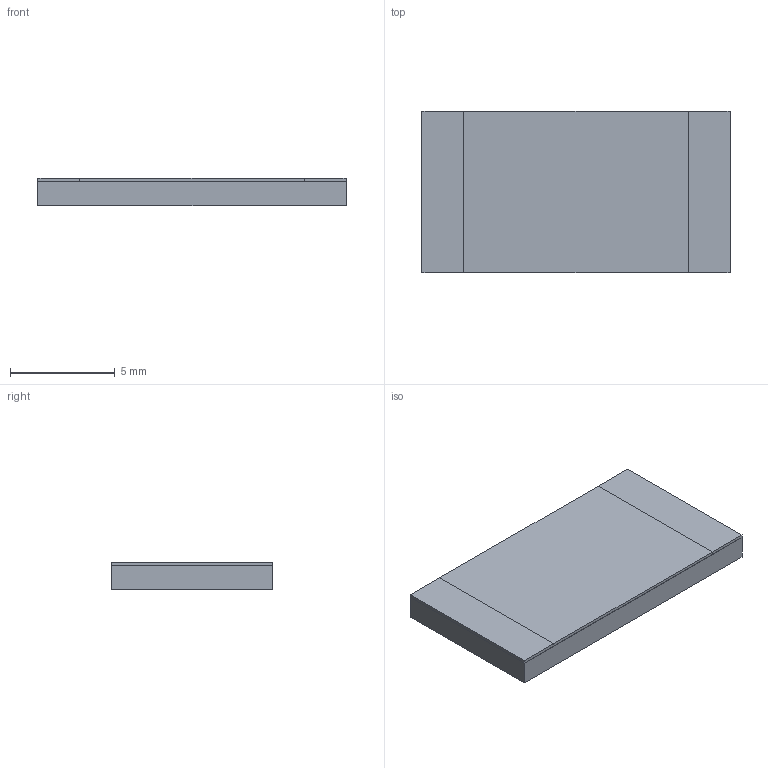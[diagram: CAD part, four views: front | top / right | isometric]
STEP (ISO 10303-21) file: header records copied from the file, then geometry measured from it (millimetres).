
FILE_DESCRIPTION(('STEP AP203'), '1');
FILE_NAME('R1-1', '', ('UNSPECIFIED'), ('UNSPECIFIED'), 'ASCON STEP Converter 1.6', 'ASCON Math Kernel', '');
FILE_SCHEMA(('CONFIG_CONTROL_DESIGN'));
Length unit declared in the file: millimetre
Bounding box: 14.7 x 7.7 x 1.3 mm (x, y, z)
Volume: 147.1 mm3; surface area: 515.6 mm2
Topology: 4 solids, 4 shells, 24 faces, 48 edges, 32 vertices
Faces by surface type: plane 24
Entity records: 866 total; most frequent: CARTESIAN_POINT 105, DIRECTION 98, ORIENTED_EDGE 96, EDGE_CURVE 48, LINE 48, VECTOR 48, VERTEX_POINT 32, COLOUR_RGB 28
